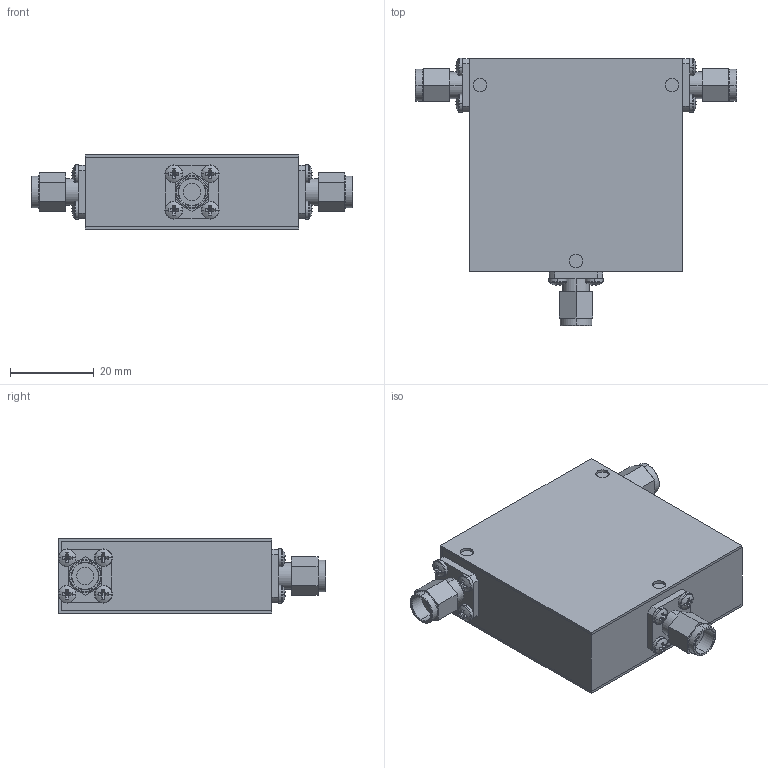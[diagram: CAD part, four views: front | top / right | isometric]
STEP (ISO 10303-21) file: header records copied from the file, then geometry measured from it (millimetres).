
FILE_DESCRIPTION (( 'STEP AP214' ), '1' );
FILE_NAME ('D3C1727-3 2.0x2.0x0.7 MMM.step', '2021-12-01T20:55:29', ( '' ), ( '' ), 'SwSTEP 2.0', 'SolidWorks 2016', '' );
FILE_SCHEMA (( 'AUTOMOTIVE_DESIGN' ));
Length unit declared in the file: inch
Products named in the file (5): D3I1727 2.0x1.975x0.65; pan cross head_ai_CR-PHMS 0.086-56x0.125x0.125-N; D3I1727 2.0x2.0x0.7; Delta SMA-Male; D3C1727-3 2.0x2.0x0.7 MMM
Assembly tree (17 placements, depth 2):
  D3C1727-3 2.0x2.0x0.7 MMM
    D3I1727 2.0x1.975x0.65
    D3I1727 2.0x2.0x0.7
    pan cross head_ai_CR-PHMS 0.086-56x0.125x0.125-N  x12
    Delta SMA-Male  x3
Bounding box: 76.56 x 63.77 x 17.78 mm (x, y, z)
Volume: 47744.6 mm3; surface area: 24084.4 mm2
Topology: 17 solids, 17 shells, 445 faces, 1014 edges, 624 vertices
Faces by surface type: plane 259, cylinder 120, torus 42, sphere 24
Entity records: 3248 total; most frequent: DIRECTION 584, CARTESIAN_POINT 504, ORIENTED_EDGE 472, EDGE_CURVE 236, AXIS2_PLACEMENT_3D 230, VERTEX_POINT 150, VECTOR 124, LINE 124
